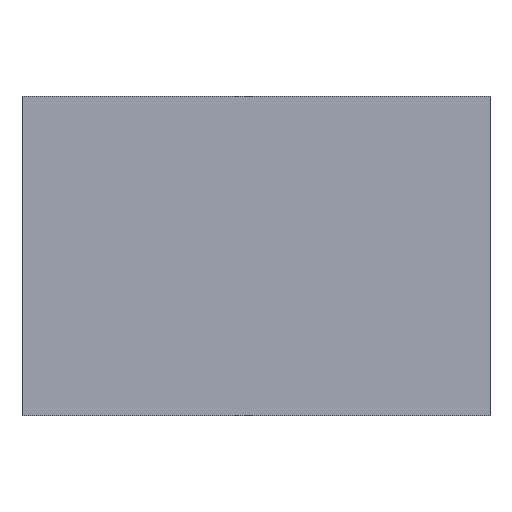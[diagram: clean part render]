
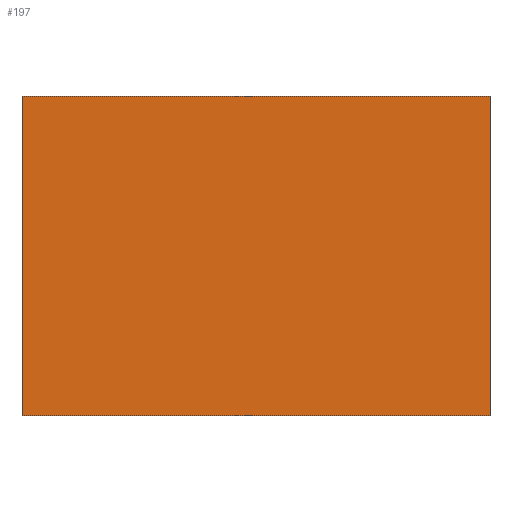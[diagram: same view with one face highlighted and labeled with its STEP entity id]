
A CAD part, top view. The second image highlights one B-rep face of the part: STEP entity #197.
In plain terms, the highlighted planar face has unit normal (0, 0, 1).
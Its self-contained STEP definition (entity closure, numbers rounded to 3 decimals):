
#6 = EDGE_CURVE ( 'NONE', #189, #187, #118, .T. ) ;
#15 = EDGE_CURVE ( 'NONE', #186, #189, #126, .T. ) ;
#17 = EDGE_CURVE ( 'NONE', #187, #188, #117, .T. ) ;
#20 = AXIS2_PLACEMENT_3D ( 'NONE', #63, #66, #76 ) ;
#25 = EDGE_CURVE ( 'NONE', #188, #186, #132, .T. ) ;
#27 = DIRECTION ( 'NONE',  ( 1., 0., 0. ) ) ;
#56 = CARTESIAN_POINT ( 'NONE',  ( -351., 0., 6. ) ) ;
#63 = CARTESIAN_POINT ( 'NONE',  ( -351., 479., 6. ) ) ;
#64 = PLANE ( 'NONE',  #20 ) ;
#66 = DIRECTION ( 'NONE',  ( 0., 0., -1. ) ) ;
#68 = CARTESIAN_POINT ( 'NONE',  ( -351., 479., 6. ) ) ;
#76 = DIRECTION ( 'NONE',  ( 0., 1., 0. ) ) ;
#85 = CARTESIAN_POINT ( 'NONE',  ( -351., 0., 6. ) ) ;
#88 = CARTESIAN_POINT ( 'NONE',  ( -351., 0., 6. ) ) ;
#89 = CARTESIAN_POINT ( 'NONE',  ( 351., 479., 6. ) ) ;
#90 = DIRECTION ( 'NONE',  ( 0., -1., 0. ) ) ;
#91 = CARTESIAN_POINT ( 'NONE',  ( 351., 0., 6. ) ) ;
#112 = VECTOR ( 'NONE', #177, 1000. ) ;
#117 = LINE ( 'NONE', #179, #112 ) ;
#118 = LINE ( 'NONE', #174, #163 ) ;
#125 = VECTOR ( 'NONE', #27, 1000. ) ;
#126 = LINE ( 'NONE', #85, #125 ) ;
#132 = LINE ( 'NONE', #88, #154 ) ;
#134 = EDGE_LOOP ( 'NONE', ( #151, #150, #146, #165 ) ) ;
#146 = ORIENTED_EDGE ( 'NONE', *, *, #6, .T. ) ;
#150 = ORIENTED_EDGE ( 'NONE', *, *, #15, .T. ) ;
#151 = ORIENTED_EDGE ( 'NONE', *, *, #25, .T. ) ;
#154 = VECTOR ( 'NONE', #90, 1000. ) ;
#162 = FACE_OUTER_BOUND ( 'NONE', #134, .T. ) ;
#163 = VECTOR ( 'NONE', #175, 1000. ) ;
#165 = ORIENTED_EDGE ( 'NONE', *, *, #17, .T. ) ;
#174 = CARTESIAN_POINT ( 'NONE',  ( 351., 0., 6. ) ) ;
#175 = DIRECTION ( 'NONE',  ( 0., 1., 0. ) ) ;
#177 = DIRECTION ( 'NONE',  ( -1., 0., 0. ) ) ;
#179 = CARTESIAN_POINT ( 'NONE',  ( -351., 479., 6. ) ) ;
#186 = VERTEX_POINT ( 'NONE', #56 ) ;
#187 = VERTEX_POINT ( 'NONE', #89 ) ;
#188 = VERTEX_POINT ( 'NONE', #68 ) ;
#189 = VERTEX_POINT ( 'NONE', #91 ) ;
#197 = ADVANCED_FACE ( 'NONE', ( #162 ), #64, .F. ) ;
